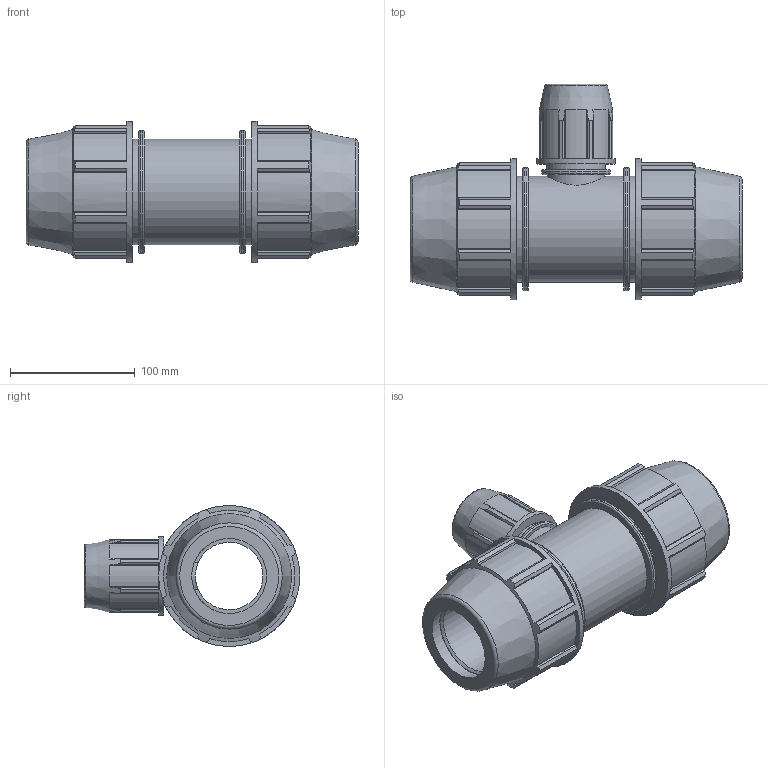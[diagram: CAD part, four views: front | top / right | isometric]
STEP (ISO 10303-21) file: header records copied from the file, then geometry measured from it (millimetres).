
FILE_DESCRIPTION(/* description */ ('PLASSON REDUCING TEE 2'''' - 1'''' - 2'''''),/* implementation_level */ '2;1');
FILE_NAME(/* name */ 'C:\Dropbox\KIMPROJECTS-Inventor 2019\99-16-3568-Processing Inch\ASTM Compression 2021\0734M0\0734M0020010.ipt.stp',/* time_stamp */ '2021-08-26T12:34:03+03:00',/* author */ ('Кирилл'),/* organization */ (''),/* preprocessor_version */ 'ST-DEVELOPER v17.2',/* originating_system */ 'Autodesk Inventor 2019',/* authorisation */ '');
FILE_SCHEMA (('AUTOMOTIVE_DESIGN { 1 0 10303 214 3 1 1 }'));
Length unit declared in the file: inch
Products named in the file (1): 0734M0020010
Bounding box: 265.94 x 172.59 x 113.03 mm (x, y, z)
Volume: 1295493.3 mm3; surface area: 185253.3 mm2
Topology: 1 solids, 1 shells, 208 faces, 617 edges, 424 vertices
Faces by surface type: plane 138, cylinder 42, cone 19, torus 9
Full cylindrical faces by diameter (mm): 29.97 x1, 33.3 x1, 47.244 x2, 54.09 x1, 54.803 x1, 60.1 x2, 62.992 x1, 84.772 x3, 98.336 x2, 113.03 x2
Entity records: 7447 total; most frequent: CARTESIAN_POINT 1549, ORIENTED_EDGE 1234, DIRECTION 1182, EDGE_CURVE 617, AXIS2_PLACEMENT_3D 431, VERTEX_POINT 424, LINE 320, VECTOR 320
